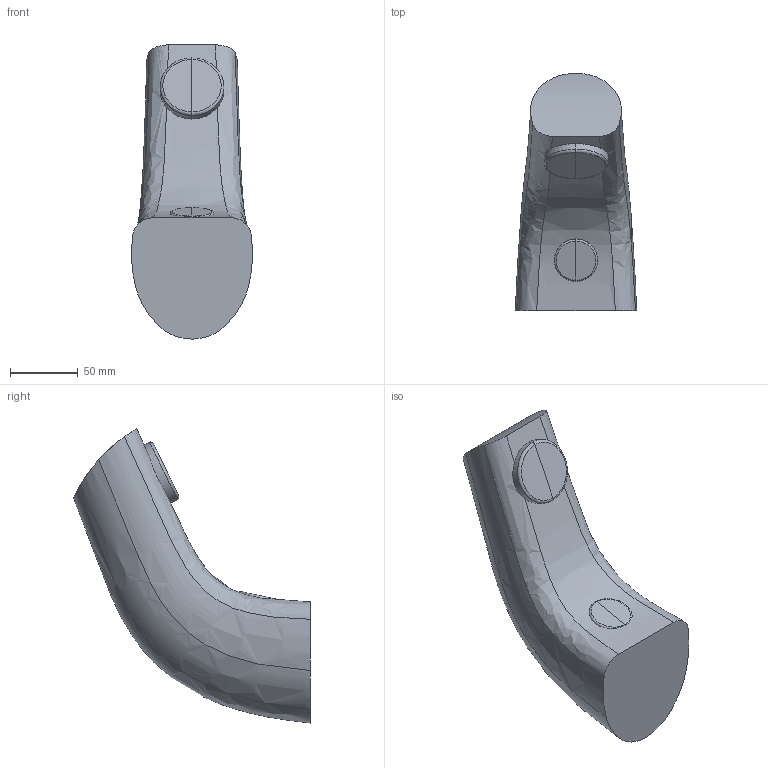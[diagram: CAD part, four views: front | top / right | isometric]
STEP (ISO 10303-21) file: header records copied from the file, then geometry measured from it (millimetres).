
FILE_DESCRIPTION (( 'STEP AP203' ), '1' );
FILE_NAME ('6110.STEP', '2018-09-11T05:14:18', ( '' ), ( '' ), 'SwSTEP 2.0', 'SolidWorks 2016', '' );
FILE_SCHEMA (( 'CONFIG_CONTROL_DESIGN' ));
Length unit declared in the file: millimetre
Products named in the file (1): 6110
Bounding box: 89.77 x 175.21 x 217.66 mm (x, y, z)
Volume: 1139720.3 mm3; surface area: 72739.4 mm2
Topology: 2 solids, 2 shells, 31 faces, 78 edges, 49 vertices
Faces by surface type: bspline 9, plane 7, cone 6, cylinder 5, torus 4
Entity records: 6357 total; most frequent: CARTESIAN_POINT 5685, ORIENTED_EDGE 150, EDGE_CURVE 75, DIRECTION 71, B_SPLINE_CURVE_WITH_KNOTS 55, VERTEX_POINT 49, EDGE_LOOP 32, FACE_OUTER_BOUND 31
